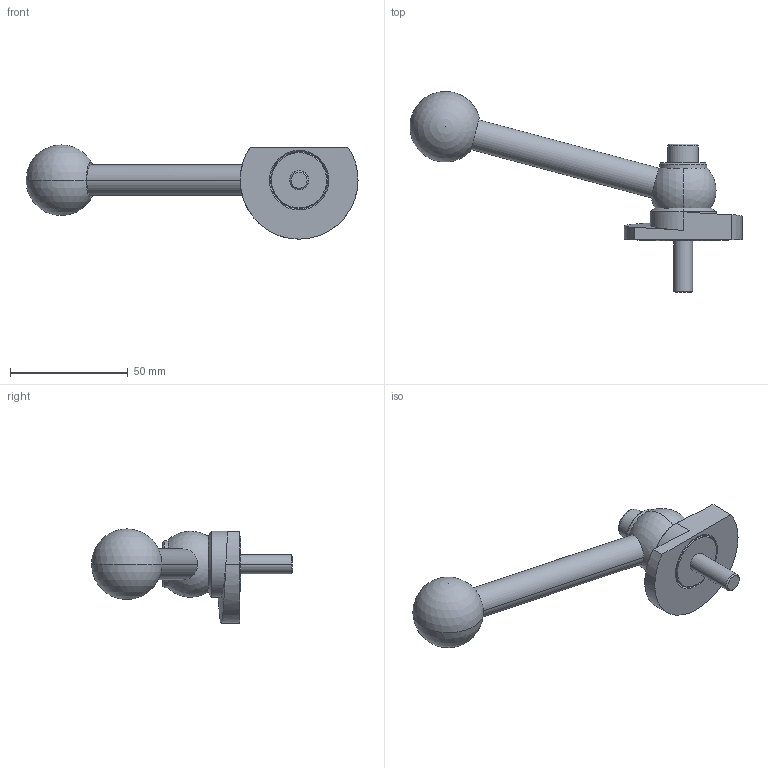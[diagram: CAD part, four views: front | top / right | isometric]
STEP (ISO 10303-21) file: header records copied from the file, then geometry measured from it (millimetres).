
FILE_DESCRIPTION (( 'STEP AP214' ), '1' );
FILE_NAME ('918.1-50-KVS-L-22.step', '2024-05-15T13:02:10', ( '' ), ( '' ), 'SwSTEP 2.0', 'SolidWorks 2022', '' );
FILE_SCHEMA (( 'AUTOMOTIVE_DESIGN' ));
Length unit declared in the file: millimetre
Products named in the file (1): 918.1-50-KVS-L-22
Bounding box: 140.94 x 85.31 x 40 mm (x, y, z)
Volume: 52563.7 mm3; surface area: 16042.7 mm2
Topology: 1 solids, 1 shells, 62 faces, 140 edges, 88 vertices
Faces by surface type: plane 20, cylinder 19, cone 14, sphere 4, bspline 3, torus 2
Entity records: 2001 total; most frequent: CARTESIAN_POINT 613, DIRECTION 305, ORIENTED_EDGE 260, EDGE_CURVE 130, AXIS2_PLACEMENT_3D 125, VERTEX_POINT 82, EDGE_LOOP 74, CIRCLE 65
